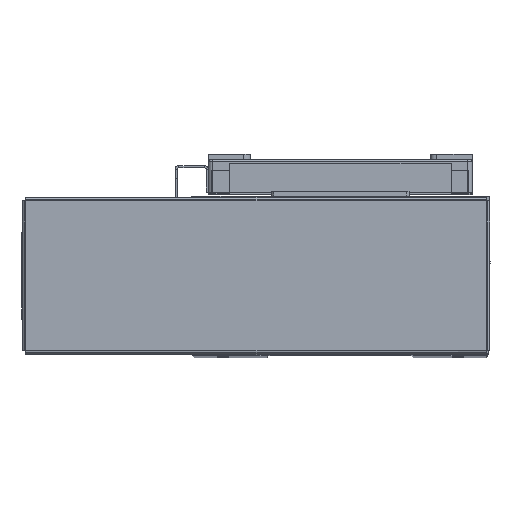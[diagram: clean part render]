
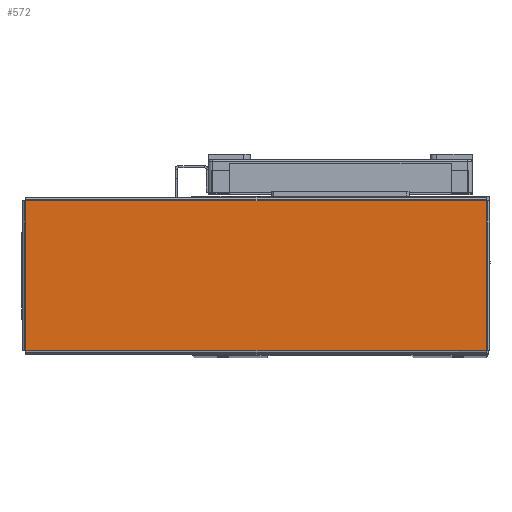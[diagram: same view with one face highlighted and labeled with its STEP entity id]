
A CAD part, top view. The second image highlights one B-rep face of the part: STEP entity #572.
In plain terms, the highlighted planar face has unit normal (0, 0, 1) as drawn and (0, -1, 0) by its records, which use the part's own axes.
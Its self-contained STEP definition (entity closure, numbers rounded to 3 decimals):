
#572 = ADVANCED_FACE ( 'NONE', ( #36588 ), #53878, .F. ) ;
#6717 = EDGE_LOOP ( 'NONE', ( #20422, #20163, #20251, #20647 ) ) ;
#7732 = CARTESIAN_POINT ( 'NONE',  ( -103.763, -1., 33.763 ) ) ;
#7800 = CARTESIAN_POINT ( 'NONE',  ( 103.763, -1., -33.763 ) ) ;
#7833 = CARTESIAN_POINT ( 'NONE',  ( -103.763, -1., -33.763 ) ) ;
#9095 = CARTESIAN_POINT ( 'NONE',  ( 103.763, -1., 33.763 ) ) ;
#20163 = ORIENTED_EDGE ( 'NONE', *, *, #30092, .T. ) ;
#20251 = ORIENTED_EDGE ( 'NONE', *, *, #29915, .T. ) ;
#20422 = ORIENTED_EDGE ( 'NONE', *, *, #30207, .T. ) ;
#20647 = ORIENTED_EDGE ( 'NONE', *, *, #30077, .T. ) ;
#29915 = EDGE_CURVE ( 'NONE', #38202, #38153, #57169, .T. ) ;
#30077 = EDGE_CURVE ( 'NONE', #38153, #49810, #57327, .T. ) ;
#30092 = EDGE_CURVE ( 'NONE', #37943, #38202, #57331, .T. ) ;
#30207 = EDGE_CURVE ( 'NONE', #49810, #37943, #57365, .T. ) ;
#36588 = FACE_OUTER_BOUND ( 'NONE', #6717, .T. ) ;
#37943 = VERTEX_POINT ( 'NONE', #7732 ) ;
#38153 = VERTEX_POINT ( 'NONE', #7800 ) ;
#38202 = VERTEX_POINT ( 'NONE', #7833 ) ;
#41870 = CARTESIAN_POINT ( 'NONE',  ( -103.793, -1., -33.763 ) ) ;
#41884 = DIRECTION ( 'NONE',  ( 1., 0., 0. ) ) ;
#42104 = CARTESIAN_POINT ( 'NONE',  ( -103.763, -1., 33.793 ) ) ;
#42120 = CARTESIAN_POINT ( 'NONE',  ( 103.763, -1., -33.793 ) ) ;
#42169 = DIRECTION ( 'NONE',  ( 0., 0., -1. ) ) ;
#42173 = DIRECTION ( 'NONE',  ( 0., 0., 1. ) ) ;
#42285 = CARTESIAN_POINT ( 'NONE',  ( 103.793, -1., 33.763 ) ) ;
#42348 = DIRECTION ( 'NONE',  ( -1., 0., 0. ) ) ;
#49810 = VERTEX_POINT ( 'NONE', #9095 ) ;
#53869 = CARTESIAN_POINT ( 'NONE',  ( 0., -1., 0. ) ) ;
#53878 = PLANE ( 'NONE',  #61977 ) ;
#53881 = DIRECTION ( 'NONE',  ( 0., 1., 0. ) ) ;
#53887 = DIRECTION ( 'NONE',  ( 0., 0., 1. ) ) ;
#57169 = LINE ( 'NONE', #41870, #57172 ) ;
#57172 = VECTOR ( 'NONE', #41884, 1000. ) ;
#57327 = LINE ( 'NONE', #42120, #57342 ) ;
#57331 = LINE ( 'NONE', #42104, #57335 ) ;
#57335 = VECTOR ( 'NONE', #42169, 1000. ) ;
#57342 = VECTOR ( 'NONE', #42173, 1000. ) ;
#57348 = VECTOR ( 'NONE', #42348, 1000. ) ;
#57365 = LINE ( 'NONE', #42285, #57348 ) ;
#61977 = AXIS2_PLACEMENT_3D ( 'NONE', #53869, #53881, #53887 ) ;
